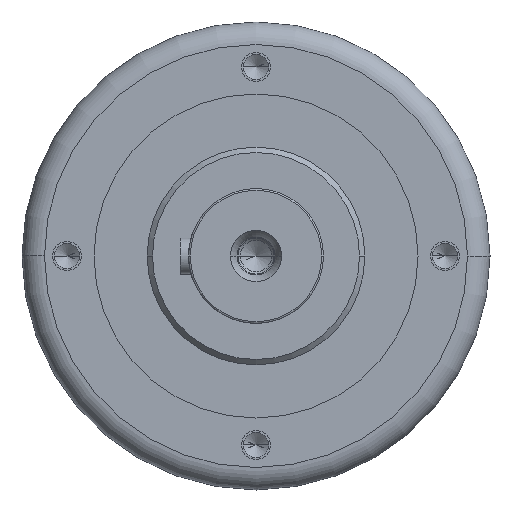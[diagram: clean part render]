
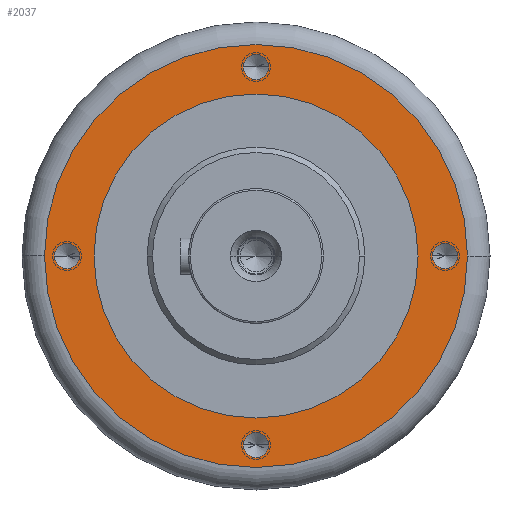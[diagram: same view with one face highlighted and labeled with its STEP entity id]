
A CAD part, left-side view. The second image highlights one B-rep face of the part: STEP entity #2037.
In plain terms, the highlighted planar face has unit normal (-1, 0, 0).
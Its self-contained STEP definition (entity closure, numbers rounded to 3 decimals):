
#1377=CARTESIAN_POINT('',(0.,0.,-105.));
#1378=DIRECTION('',(-1.,0.,0.));
#1379=DIRECTION('',(0.,1.,0.));
#1380=AXIS2_PLACEMENT_3D('',#1377,#1378,#1379);
#1382=CARTESIAN_POINT('',(0.,0.,-105.));
#1383=DIRECTION('',(-1.,0.,0.));
#1384=DIRECTION('',(0.,-1.,0.));
#1385=AXIS2_PLACEMENT_3D('',#1382,#1383,#1384);
#1387=CARTESIAN_POINT('',(0.,-105.,0.));
#1388=DIRECTION('',(-1.,0.,0.));
#1389=DIRECTION('',(0.,1.,0.));
#1390=AXIS2_PLACEMENT_3D('',#1387,#1388,#1389);
#1392=CARTESIAN_POINT('',(0.,-105.,0.));
#1393=DIRECTION('',(-1.,0.,0.));
#1394=DIRECTION('',(0.,-1.,0.));
#1395=AXIS2_PLACEMENT_3D('',#1392,#1393,#1394);
#1397=CARTESIAN_POINT('',(0.,0.,105.));
#1398=DIRECTION('',(-1.,0.,0.));
#1399=DIRECTION('',(0.,1.,0.));
#1400=AXIS2_PLACEMENT_3D('',#1397,#1398,#1399);
#1402=CARTESIAN_POINT('',(0.,0.,105.));
#1403=DIRECTION('',(-1.,0.,0.));
#1404=DIRECTION('',(0.,-1.,0.));
#1405=AXIS2_PLACEMENT_3D('',#1402,#1403,#1404);
#1407=CARTESIAN_POINT('',(0.,0.,0.));
#1408=DIRECTION('',(-1.,0.,0.));
#1409=DIRECTION('',(0.,1.,0.));
#1410=AXIS2_PLACEMENT_3D('',#1407,#1408,#1409);
#1412=CARTESIAN_POINT('',(0.,0.,0.));
#1413=DIRECTION('',(-1.,0.,0.));
#1414=DIRECTION('',(0.,-1.,0.));
#1415=AXIS2_PLACEMENT_3D('',#1412,#1413,#1414);
#1417=CARTESIAN_POINT('',(0.,105.,0.));
#1418=DIRECTION('',(-1.,0.,0.));
#1419=DIRECTION('',(0.,1.,0.));
#1420=AXIS2_PLACEMENT_3D('',#1417,#1418,#1419);
#1422=CARTESIAN_POINT('',(0.,105.,0.));
#1423=DIRECTION('',(-1.,0.,0.));
#1424=DIRECTION('',(0.,-1.,0.));
#1425=AXIS2_PLACEMENT_3D('',#1422,#1423,#1424);
#1505=CARTESIAN_POINT('',(0.,0.,0.));
#1506=DIRECTION('',(1.,0.,0.));
#1507=DIRECTION('',(0.,1.,0.));
#1508=AXIS2_PLACEMENT_3D('',#1505,#1506,#1507);
#1518=CARTESIAN_POINT('',(0.,0.,0.));
#1519=DIRECTION('',(-1.,0.,0.));
#1520=DIRECTION('',(0.,1.,0.));
#1521=AXIS2_PLACEMENT_3D('',#1518,#1519,#1520);
#1873=CARTESIAN_POINT('',(0.,90.,0.));
#1875=VERTEX_POINT('',#1873);
#1881=CARTESIAN_POINT('',(0.,-90.,0.));
#1883=VERTEX_POINT('',#1881);
#1897=CARTESIAN_POINT('',(0.,117.5,0.));
#1898=CARTESIAN_POINT('',(0.,-117.5,0.));
#1899=VERTEX_POINT('',#1897);
#1900=VERTEX_POINT('',#1898);
#1923=CARTESIAN_POINT('',(0.,112.,0.));
#1924=CARTESIAN_POINT('',(0.,98.,0.));
#1925=VERTEX_POINT('',#1923);
#1926=VERTEX_POINT('',#1924);
#1933=CARTESIAN_POINT('',(0.,7.,105.));
#1934=CARTESIAN_POINT('',(0.,-7.,105.));
#1935=VERTEX_POINT('',#1933);
#1936=VERTEX_POINT('',#1934);
#1943=CARTESIAN_POINT('',(0.,-98.,0.));
#1944=CARTESIAN_POINT('',(0.,-112.,0.));
#1945=VERTEX_POINT('',#1943);
#1946=VERTEX_POINT('',#1944);
#1953=CARTESIAN_POINT('',(0.,7.,-105.));
#1954=CARTESIAN_POINT('',(0.,-7.,-105.));
#1955=VERTEX_POINT('',#1953);
#1956=VERTEX_POINT('',#1954);
#1996=CARTESIAN_POINT('',(0.,0.,0.));
#1997=DIRECTION('',(1.,0.,0.));
#1998=DIRECTION('',(0.,-1.,0.));
#1999=AXIS2_PLACEMENT_3D('',#1996,#1997,#1998);
#2000=PLANE('',#1999);
#2002=ORIENTED_EDGE('',*,*,#2001,.F.);
#2004=ORIENTED_EDGE('',*,*,#2003,.F.);
#2005=EDGE_LOOP('',(#2002,#2004));
#2006=FACE_OUTER_BOUND('',#2005,.F.);
#2008=ORIENTED_EDGE('',*,*,#2007,.T.);
#2010=ORIENTED_EDGE('',*,*,#2009,.T.);
#2011=EDGE_LOOP('',(#2008,#2010));
#2012=FACE_BOUND('',#2011,.F.);
#2014=ORIENTED_EDGE('',*,*,#2013,.T.);
#2016=ORIENTED_EDGE('',*,*,#2015,.T.);
#2017=EDGE_LOOP('',(#2014,#2016));
#2018=FACE_BOUND('',#2017,.F.);
#2020=ORIENTED_EDGE('',*,*,#2019,.F.);
#2022=ORIENTED_EDGE('',*,*,#2021,.T.);
#2023=EDGE_LOOP('',(#2020,#2022));
#2024=FACE_BOUND('',#2023,.F.);
#2026=ORIENTED_EDGE('',*,*,#2025,.T.);
#2028=ORIENTED_EDGE('',*,*,#2027,.T.);
#2029=EDGE_LOOP('',(#2026,#2028));
#2030=FACE_BOUND('',#2029,.F.);
#2032=ORIENTED_EDGE('',*,*,#2031,.T.);
#2034=ORIENTED_EDGE('',*,*,#2033,.T.);
#2035=EDGE_LOOP('',(#2032,#2034));
#2036=FACE_BOUND('',#2035,.F.);
#2037=ADVANCED_FACE('',(#2006,#2012,#2018,#2024,#2030,#2036),#2000,.F.);
#1381=CIRCLE('',#1380,7.);
#1386=CIRCLE('',#1385,7.);
#1391=CIRCLE('',#1390,7.);
#1396=CIRCLE('',#1395,7.);
#1401=CIRCLE('',#1400,7.);
#1406=CIRCLE('',#1405,7.);
#1411=CIRCLE('',#1410,117.5);
#1416=CIRCLE('',#1415,117.5);
#1421=CIRCLE('',#1420,7.);
#1426=CIRCLE('',#1425,7.);
#1509=CIRCLE('',#1508,90.);
#1522=CIRCLE('',#1521,90.);
#2001=EDGE_CURVE('',#1899,#1900,#1411,.T.);
#2003=EDGE_CURVE('',#1900,#1899,#1416,.T.);
#2007=EDGE_CURVE('',#1945,#1946,#1391,.T.);
#2009=EDGE_CURVE('',#1946,#1945,#1396,.T.);
#2013=EDGE_CURVE('',#1935,#1936,#1401,.T.);
#2015=EDGE_CURVE('',#1936,#1935,#1406,.T.);
#2019=EDGE_CURVE('',#1875,#1883,#1509,.T.);
#2021=EDGE_CURVE('',#1875,#1883,#1522,.T.);
#2025=EDGE_CURVE('',#1955,#1956,#1381,.T.);
#2027=EDGE_CURVE('',#1956,#1955,#1386,.T.);
#2031=EDGE_CURVE('',#1925,#1926,#1421,.T.);
#2033=EDGE_CURVE('',#1926,#1925,#1426,.T.);
